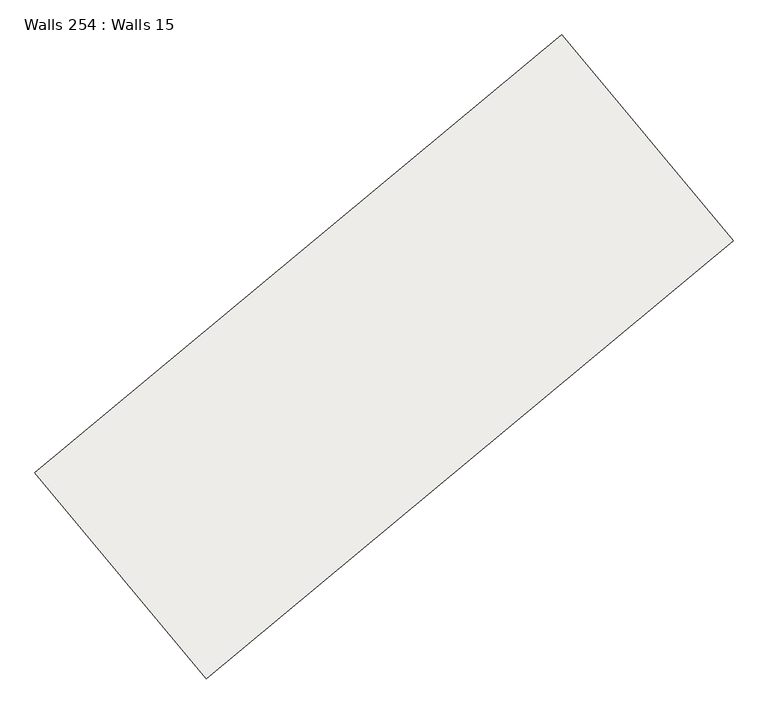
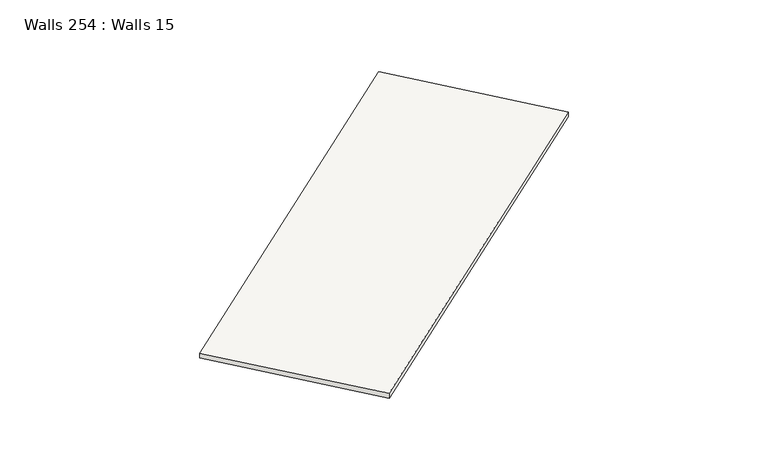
"""IFC4 building model written with IfcOpenShell, lengths in millimetres: slab geometry, Walls 254 : Walls 15."""

from ifc_helpers import new_model, si_unit, frame, origin, place, context, project, spatial, polyline, outline, extrude, source, transform, mapped, element, save


def walls_254_walls_15_f229baaa(model_context):
    return source(origin(), model_context, "Body", "SweptSolid", [
        extrude(outline(polyline([(-50.0, 0.0), (50.0, 0.0), (-30.0, -8699.8912329), (-130.0, -8699.8912329), (-50.0, 0.0)])), frame((-257324.9058742, -418968.6462583, 634430.0), z_axis=(-0.6389407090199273, 0.7692559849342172, 0.0), x_axis=(0.0, 0.0, 1.0)), (0.0, 0.0, 1.0), 3399.9650046),
    ])


if __name__ == "__main__":
    model = new_model("IFC4")
    model_context = context("Model", 3, world=origin())
    ifc_project = project(units=[si_unit("LENGTHUNIT", "METRE", prefix="MILLI")], contexts=[model_context])
    site = spatial("IfcSite", under=ifc_project)
    building = spatial("IfcBuilding", under=site)
    placement = place(None, origin())
    walls_254_walls_15_shape = walls_254_walls_15_f229baaa(model_context)
    element("IfcSlab", 1, ObjectType="Walls 254 : Walls 15", at=placement, inside=building, context=model_context, shape_type="MappedRepresentation", body=[
        mapped(walls_254_walls_15_shape, transform((0.0, 0.0, 0.0), x_axis=(1.0, 0.0, 0.0), y_axis=(0.0, 1.0, 0.0), z_axis=(0.0, 0.0, 1.0))),
    ])
    save(model, "model.ifc")
